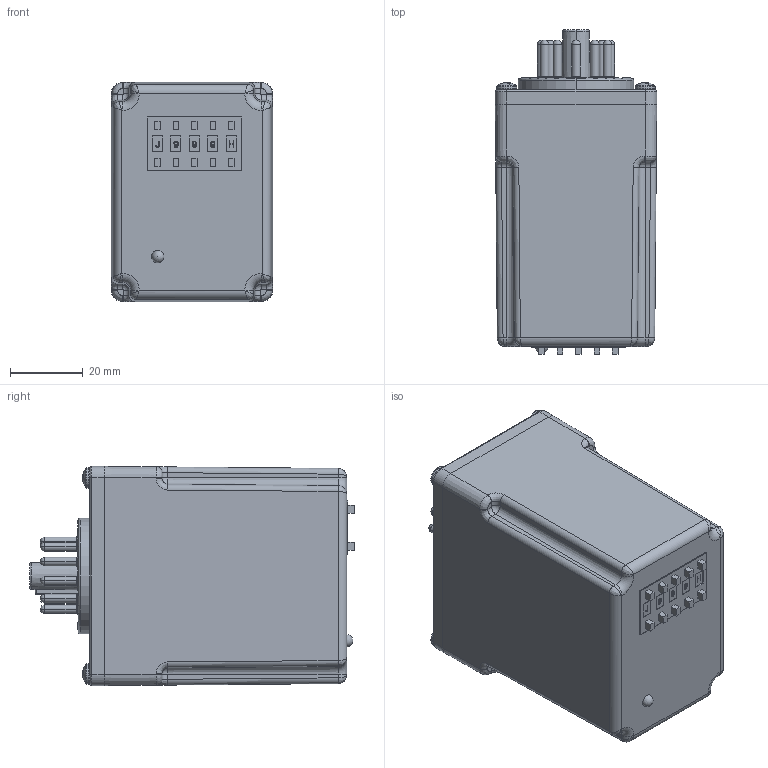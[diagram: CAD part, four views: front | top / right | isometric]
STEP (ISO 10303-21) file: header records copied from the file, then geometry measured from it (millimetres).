
FILE_DESCRIPTION(('FreeCAD Model'),'2;1');
FILE_NAME('Open CASCADE Shape Model','2023-06-06T13:24:16',(''),(''), 'Open CASCADE STEP processor 7.6','FreeCAD','Unknown');
FILE_SCHEMA(('AUTOMOTIVE_DESIGN { 1 0 10303 214 1 1 1 1 }'));
Products named in the file (1): Compound001
Bounding box: 44.45 x 89.41 x 60.33 mm (x, y, z)
Surface area: 45205.5 mm2 (no closed solid volume)
Topology: 0 solids, 28 shells, 2072 faces, 5125 edges, 3186 vertices
Faces by surface type: plane 690, cylinder 528, bspline 369, torus 282, revolution 140, cone 60, sphere 3
Entity records: 199555 total; most frequent: CARTESIAN_POINT 102586, DIRECTION 16025, ORIENTED_EDGE 10212, PCURVE 10212, DEFINITIONAL_REPRESENTATION 10212, LINE 9636, VECTOR 9636, EDGE_CURVE 5114
